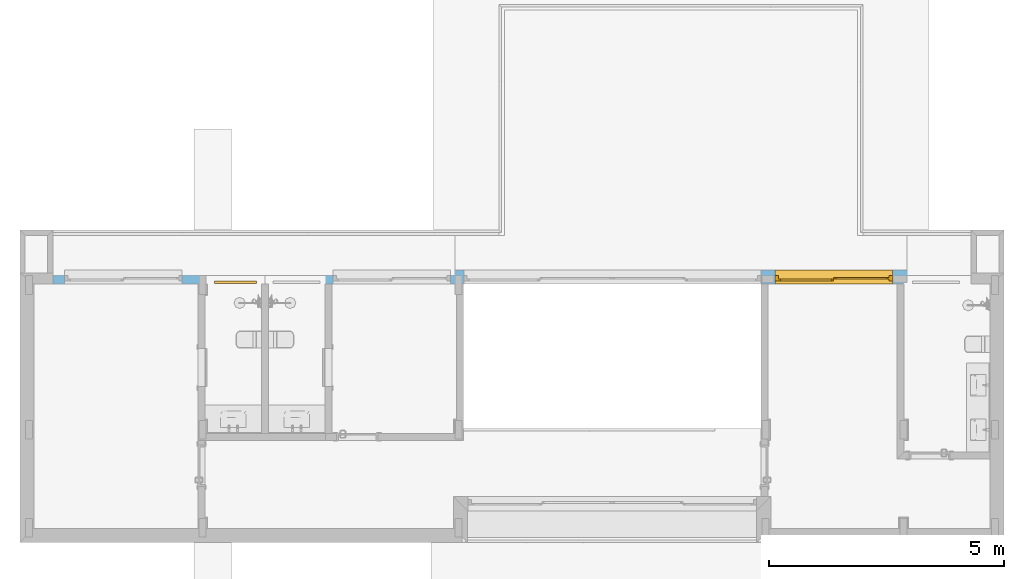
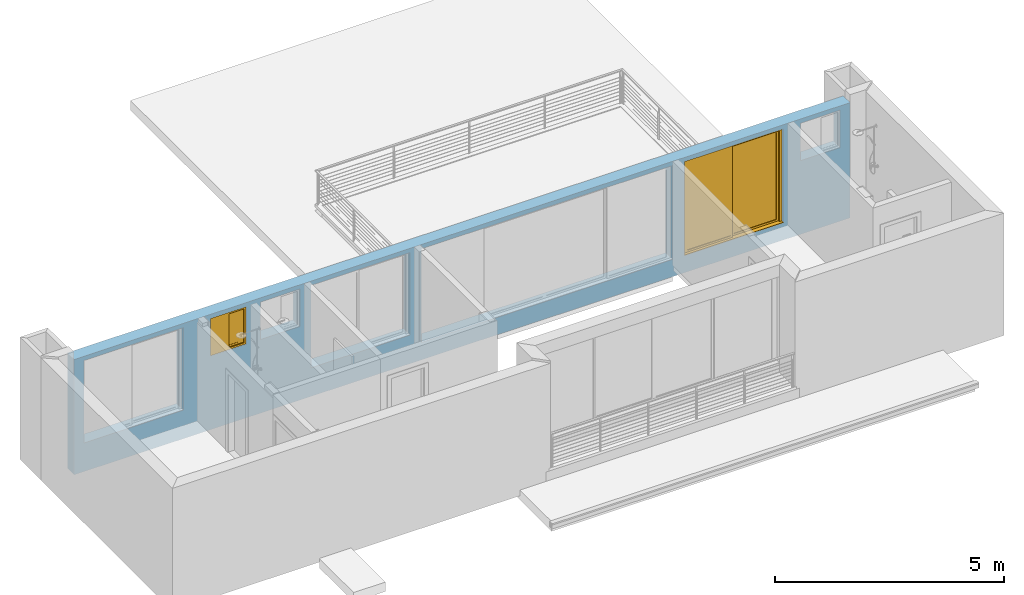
# One storey, part 16 of 24: 1 door, 1 window, 7 openings, plus 1 element that does not belong to this part.
"""IFC2X3 building model written with IfcOpenShell, lengths in millimetres."""

from ifc_helpers import new_model, entity, si_unit, converted_unit, money_unit, direction, frame, origin_with_axes, origin_2d_with_axis, place, context, subcontext, project, spatial, polyline, rectangle, outline, extrude, open_shell, faceted_brep, surface_model, material, material_list, layer, layer_set, layer_usage, type_object, element, fill, save


model = new_model("IFC2X3")

# Units and contexts
model_context = context("Model", 3, precision=1e-05, world=origin_with_axes(), true_north=direction((0.0, 1.0)))
body_context = subcontext(model_context, "Body", "Model", "MODEL_VIEW")
ifc_project = project(units=[si_unit("LENGTHUNIT", "METRE", prefix="MILLI"), si_unit("AREAUNIT", "SQUARE_METRE"), si_unit("VOLUMEUNIT", "CUBIC_METRE"), converted_unit("PLANEANGLEUNIT", "DEGREE", entity("IfcPlaneAngleMeasure", 0.0174532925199), si_unit("PLANEANGLEUNIT", "RADIAN"), dimensions=[0, 0, 0, 0, 0, 0, 0]), si_unit("SOLIDANGLEUNIT", "STERADIAN"), money_unit("USD"), converted_unit("TIMEUNIT", "Year", entity("IfcTimeMeasure", 31556926.0), si_unit("TIMEUNIT", "SECOND"), dimensions=[0, 0, 0, 0, 0, 0, 0]), si_unit("MASSUNIT", "GRAM"), si_unit("THERMODYNAMICTEMPERATUREUNIT", "DEGREE_CELSIUS"), si_unit("LUMINOUSINTENSITYUNIT", "LUMEN")], contexts=[model_context])

# Site, building, storey
site_placement = place(None, origin_with_axes())
site = spatial("IfcSite", under=ifc_project, at=site_placement, Name="Grove Residential", CompositionType="ELEMENT")
building_placement = place(site_placement, origin_with_axes())
building = spatial("IfcBuilding", under=site, at=building_placement, Name="Building", CompositionType="ELEMENT")
storey_placement = place(building_placement, frame((0.0, 0.0, 3740.0), z_axis=(0.0, 0.0, 1.0), x_axis=(1.0, 0.0, 0.0)))
storey = spatial("IfcBuildingStorey", under=building, at=storey_placement, Name="First Floor", CompositionType="ELEMENT", Elevation=3740.0)

# Wall, openings, door, window
ifc_material_1 = material(Name="External Render")
ifc_layer_1 = layer(ifc_material_1, 20.0, ventilated="UNKNOWN")
ifc_material_2 = material(Name="Cement Board")
ifc_layer_2 = layer(ifc_material_2, 10.0, ventilated="UNKNOWN")
ifc_material_3 = material(Name="Air Space")
ifc_layer_3 = layer(ifc_material_3, 35.0, ventilated="UNKNOWN")
ifc_material_4 = material(Name="Insulation - Plastic Soft")
ifc_layer_4 = layer(ifc_material_4, 50.0, ventilated="UNKNOWN")
ifc_material_5 = material(Name="Concrete Block")
ifc_layer_5 = layer(ifc_material_5, 150.0, ventilated="UNKNOWN")
ifc_material_6 = material(Name="Air Space - Fixing Zone")
ifc_layer_6 = layer(ifc_material_6, 10.0, ventilated="UNKNOWN")
ifc_material_7 = material(Name="Gypsum Plasterboard")
ifc_layer_7 = layer(ifc_material_7, 12.5, ventilated="UNKNOWN")
ifc_layer_8 = layer(ifc_material_7, 12.5, ventilated="UNKNOWN")
ifc_layer_set = layer_set([ifc_layer_1, ifc_layer_2, ifc_layer_3, ifc_layer_4, ifc_layer_5, ifc_layer_6, ifc_layer_7, ifc_layer_8], Name="EWF - 001")
ifc_layer_usage = layer_usage(ifc_layer_set, "AXIS2", "POSITIVE", -115.0)
wall_type = type_object("IfcWallType", Name="EWF - 001 300", PredefinedType="NOTDEFINED")
wall_placement = place(storey_placement, frame((11550.0, 7035.0, -360.0), z_axis=(0.0, 0.0, 1.0), x_axis=(-1.0, 0.0, 0.0)))
wall = element("IfcWallStandardCase", 1, at=wall_placement, inside=storey, type_object=wall_type, material=ifc_layer_usage, Name="SW - 004", context=body_context, shape_type="SweptSolid", body=[
    extrude(outline(polyline([(0.0, -115.0), (19550.0, -115.0), (19550.0, 185.0), (0.0, 185.0), (0.0, -115.0)])), origin_with_axes(), (0.0, 0.0, 1.0), 3070.0),
])
opening_1_placement = place(wall_placement, frame((750.0, 0.0, 1960.0), z_axis=(0.0, 0.0, 1.0), x_axis=(1.0, 0.0, 0.0)))
element("IfcOpeningElement", 2, at=opening_1_placement, cuts=wall, Name="W.03", context=body_context, shape_type="SweptSolid", body=[
    extrude(rectangle(XDim=1000.0, YDim=1000.0, at=origin_2d_with_axis()), frame((0.0, 120.0, 500.0), z_axis=(0.0, 1.0, 0.0), x_axis=(1.0, 0.0, 0.0)), (0.0, 0.0, -1.0), 535.0),
    extrude(rectangle(XDim=1000.0, YDim=1000.0, at=origin_2d_with_axis()), frame((0.0, 120.0, 500.0), z_axis=(0.0, -1.0, 0.0), x_axis=(1.0, 0.0, 0.0)), (0.0, 0.0, -1.0), 365.0),
])
opening_2_placement = place(wall_placement, frame((14360.0, 0.0, 1960.0), z_axis=(0.0, 0.0, 1.0), x_axis=(1.0, 0.0, 0.0)))
element("IfcOpeningElement", 3, at=opening_2_placement, cuts=wall, Name="W.03", context=body_context, shape_type="SweptSolid", body=[
    extrude(rectangle(XDim=1000.0, YDim=1000.0, at=origin_2d_with_axis()), frame((0.0, 120.0, 500.0), z_axis=(0.0, 1.0, 0.0), x_axis=(1.0, 0.0, 0.0)), (0.0, 0.0, -1.0), 535.0),
    extrude(rectangle(XDim=1000.0, YDim=1000.0, at=origin_2d_with_axis()), frame((0.0, 120.0, 500.0), z_axis=(0.0, -1.0, 0.0), x_axis=(1.0, 0.0, 0.0)), (0.0, 0.0, -1.0), 365.0),
])
opening_3_placement = place(wall_placement, frame((15660.0, 0.0, 1960.0), z_axis=(0.0, 0.0, 1.0), x_axis=(1.0, 0.0, 0.0)))
opening_3 = element("IfcOpeningElement", 4, at=opening_3_placement, cuts=wall, Name="W.02", context=body_context, shape_type="SweptSolid", body=[
    extrude(rectangle(XDim=900.0, YDim=1000.0, at=origin_2d_with_axis()), frame((0.0, 120.0, 500.0), z_axis=(0.0, 1.0, 0.0), x_axis=(1.0, 0.0, 0.0)), (0.0, 0.0, -1.0), 535.0),
    extrude(rectangle(XDim=900.0, YDim=1000.0, at=origin_2d_with_axis()), frame((0.0, 120.0, 500.0), z_axis=(0.0, -1.0, 0.0), x_axis=(1.0, 0.0, 0.0)), (0.0, 0.0, -1.0), 365.0),
])
opening_4_placement = place(wall_placement, frame((18050.0, 0.0, 760.0), z_axis=(0.0, 0.0, 1.0), x_axis=(1.0, 0.0, 0.0)))
element("IfcOpeningElement", 5, at=opening_4_placement, cuts=wall, Name="D.06", context=body_context, shape_type="SweptSolid", body=[
    extrude(rectangle(XDim=2500.0, YDim=2200.0, at=origin_2d_with_axis()), frame((0.0, 5.0, 1100.0), z_axis=(0.0, -1.0, 0.0), x_axis=(1.0, 0.0, 0.0)), (0.0, 0.0, -1.0), 480.0),
    extrude(rectangle(XDim=2500.0, YDim=2200.0, at=origin_2d_with_axis()), frame((0.0, 5.0, 1100.0), z_axis=(0.0, 1.0, 0.0), x_axis=(1.0, 0.0, 0.0)), (0.0, 0.0, -1.0), 420.0),
])
opening_5_placement = place(wall_placement, frame((12335.0000067, 0.0, 760.0), z_axis=(0.0, 0.0, 1.0), x_axis=(1.0, 0.0, 0.0)))
element("IfcOpeningElement", 6, at=opening_5_placement, cuts=wall, Name="D.06", context=body_context, shape_type="SweptSolid", body=[
    extrude(rectangle(XDim=2500.0, YDim=2200.0, at=origin_2d_with_axis()), frame((0.0, 5.0, 1100.0), z_axis=(0.0, -1.0, 0.0), x_axis=(1.0, 0.0, 0.0)), (0.0, 0.0, -1.0), 480.0),
    extrude(rectangle(XDim=2500.0, YDim=2200.0, at=origin_2d_with_axis()), frame((0.0, 5.0, 1100.0), z_axis=(0.0, 1.0, 0.0), x_axis=(1.0, 0.0, 0.0)), (0.0, 0.0, -1.0), 420.0),
])
opening_6_placement = place(wall_placement, frame((2925.0, 0.0, 460.0), z_axis=(0.0, 0.0, 1.0), x_axis=(1.0, 0.0, 0.0)))
opening_6 = element("IfcOpeningElement", 7, at=opening_6_placement, cuts=wall, Name="D.06", context=body_context, shape_type="SweptSolid", body=[
    extrude(rectangle(XDim=2500.0, YDim=2500.0, at=origin_2d_with_axis()), frame((0.0, 5.0, 1250.0), z_axis=(0.0, -1.0, 0.0), x_axis=(1.0, 0.0, 0.0)), (0.0, 0.0, -1.0), 480.0),
    extrude(rectangle(XDim=2500.0, YDim=2500.0, at=origin_2d_with_axis()), frame((0.0, 5.0, 1250.0), z_axis=(0.0, 1.0, 0.0), x_axis=(1.0, 0.0, 0.0)), (0.0, 0.0, -1.0), 420.0),
])
opening_7_placement = place(wall_placement, frame((7637.5, 0.0, 460.0), z_axis=(0.0, 0.0, 1.0), x_axis=(1.0, 0.0, 0.0)))
element("IfcOpeningElement", 8, at=opening_7_placement, cuts=wall, Name="D.13", context=body_context, shape_type="SweptSolid", body=[
    extrude(rectangle(XDim=6325.0, YDim=2500.0, at=origin_2d_with_axis()), frame((0.0, 5.0, 1250.0), z_axis=(0.0, -1.0, 0.0), x_axis=(1.0, 0.0, 0.0)), (0.0, 0.0, -1.0), 480.0),
    extrude(rectangle(XDim=6325.0, YDim=2500.0, at=origin_2d_with_axis()), frame((0.0, 5.0, 1250.0), z_axis=(0.0, 1.0, 0.0), x_axis=(1.0, 0.0, 0.0)), (0.0, 0.0, -1.0), 420.0),
])
ifc_material_8 = material(Name="Background")
ifc_material_9 = material(Name="Air Space")
ifc_material_10 = material(Name="Foreground")
ifc_material_11 = material(Name="Rigid Insulation")
ifc_material_12 = material(Name="Batt Insulation")
ifc_material_list_1 = material_list([ifc_material_8, ifc_material_9, ifc_material_10, ifc_material_8, ifc_material_8, ifc_material_8, ifc_material_8, ifc_material_11, ifc_material_8, ifc_material_8, ifc_material_8, ifc_material_8, ifc_material_9, ifc_material_8, ifc_material_12, ifc_material_8])
door_style = type_object("IfcDoorStyle", Name="Sliding Door 21", ConstructionType="NOTDEFINED", OperationType="USERDEFINED", ParameterTakesPrecedence=False, Sizeable=False)
door_placement = place(opening_6_placement, frame((-1250.0, 0.0, 0.0), z_axis=(0.0, 0.0, 1.0), x_axis=(1.0, 0.0, 0.0)))
door = element("IfcDoor", 9, at=door_placement, inside=storey, type_object=door_style, material=ifc_material_list_1, Name="D.06", OverallHeight=2500.0, OverallWidth=2500.0, context=body_context, shape_type="SurfaceModel", body=[
    faceted_brep([(0.0, 5.0, 0.0), (0.0, -115.01, 0.0), (0.0, -115.01, 12.0), (0.0, 5.0, 12.0), (70.0, 5.0, 0.0), (70.0, 120.0, 0.0), (0.0, 120.0, 0.0), (0.0, 185.0, 0.0), (0.0, 185.01, 0.0), (2500.0, 185.01, 0.0), (2500.0, 185.0, 0.0), (2500.0, 120.0, 0.0), (2430.0, 120.0, 0.0), (2430.0, 5.0, 0.0), (2500.0, 5.0, 0.0), (2500.0, -115.0, 0.0), (2500.0, -115.0, 12.0), (2500.0, 5.0, 12.0), (2430.0, 5.0, 12.0), (2430.0, 120.0, 12.0), (2500.0, 120.0, 12.0), (2500.0, 185.0, 12.0), (2500.0, 185.01, 12.0), (0.0, 185.01, 12.0), (0.0, 185.0, 12.0), (0.0, 120.0, 12.0), (70.0, 120.0, 12.0), (70.0, 5.0, 12.0)], [[[0, 1, 2, 3]], [[0, 4, 5, 6, 7, 8, 9, 10, 11, 12, 13, 14, 15, 1]], [[1, 15, 16, 2]], [[3, 2, 16, 17, 18, 19, 20, 21, 22, 23, 24, 25, 26, 27]], [[4, 0, 3, 27]], [[5, 4, 27, 26]], [[6, 5, 26, 25]], [[7, 6, 25, 24]], [[8, 7, 24, 23]], [[9, 8, 23, 22]], [[10, 9, 22, 21]], [[11, 10, 21, 20]], [[12, 11, 20, 19]], [[13, 12, 19, 18]], [[14, 13, 18, 17]], [[15, 14, 17, 16]]]),
    faceted_brep([(0.0, 120.0, 0.0), (70.0, 120.0, 0.0), (70.0, 5.0, 0.0), (0.0, 5.0, 0.0), (0.0, 120.0, 2430.0), (70.0, 120.0, 2430.0), (70.0, 5.0, 2430.0), (0.0, 5.0, 2430.0)], [[[0, 1, 2, 3]], [[0, 4, 5, 1]], [[1, 5, 6, 2]], [[3, 2, 6, 7]], [[4, 0, 3, 7]], [[5, 4, 7, 6]]]),
    faceted_brep([(2500.0, 120.0, 0.0), (2500.0, 120.0, 2430.0), (2500.0, 5.0, 2430.0), (2500.0, 5.0, 0.0), (2430.0, 120.0, 0.0), (2430.0, 120.0, 2430.0), (2430.0, 5.0, 2430.0), (2430.0, 5.0, 0.0)], [[[0, 1, 2, 3]], [[0, 4, 5, 1]], [[1, 5, 6, 2]], [[3, 2, 6, 7]], [[4, 0, 3, 7]], [[5, 4, 7, 6]]]),
    faceted_brep([(0.0, 120.0, 2500.0), (0.0, 120.0, 2430.0), (0.0, 5.0, 2430.0), (0.0, 5.0, 2500.0), (2500.0, 120.0, 2500.0), (2500.0, 120.0, 2430.0), (2430.0, 120.0, 2430.0), (70.0, 120.0, 2430.0), (70.0, 5.0, 2430.0), (2430.0, 5.0, 2430.0), (2500.0, 5.0, 2430.0), (2500.0, 5.0, 2500.0)], [[[0, 1, 2, 3]], [[0, 4, 5, 6, 7, 1]], [[1, 7, 8, 2]], [[3, 2, 8, 9, 10, 11]], [[4, 0, 3, 11]], [[5, 4, 11, 10]], [[6, 5, 10, 9]], [[7, 6, 9, 8]]]),
    faceted_brep([(1250.0, 120.0, 62.0), (1300.0, 120.0, 62.0), (1300.0, 80.0, 62.0), (1250.0, 80.0, 62.0), (1250.0, 120.0, 2380.0), (1300.0, 120.0, 2380.0), (1300.0, 80.0, 2380.0), (1250.0, 80.0, 2380.0)], [[[0, 1, 2, 3]], [[0, 4, 5, 1]], [[1, 5, 6, 2]], [[3, 2, 6, 7]], [[4, 0, 3, 7]], [[5, 4, 7, 6]]]),
    faceted_brep([(2430.0, 120.0, 62.0), (2430.0, 120.0, 2380.0), (2430.0, 80.0, 2380.0), (2430.0, 80.0, 62.0), (2380.0, 120.0, 62.0), (2380.0, 120.0, 2380.0), (2380.0, 80.0, 2380.0), (2380.0, 80.0, 62.0)], [[[0, 1, 2, 3]], [[0, 4, 5, 1]], [[1, 5, 6, 2]], [[3, 2, 6, 7]], [[4, 0, 3, 7]], [[5, 4, 7, 6]]]),
    faceted_brep([(1250.0, 120.0, 12.0), (2430.0, 120.0, 12.0), (2430.0, 80.0, 12.0), (1250.0, 80.0, 12.0), (1250.0, 120.0, 62.0), (1300.0, 120.0, 62.0), (2380.0, 120.0, 62.0), (2430.0, 120.0, 62.0), (2430.0, 80.0, 62.0), (2380.0, 80.0, 62.0), (1300.0, 80.0, 62.0), (1250.0, 80.0, 62.0)], [[[0, 1, 2, 3]], [[0, 4, 5, 6, 7, 1]], [[1, 7, 8, 2]], [[3, 2, 8, 9, 10, 11]], [[4, 0, 3, 11]], [[5, 4, 11, 10]], [[6, 5, 10, 9]], [[7, 6, 9, 8]]]),
    faceted_brep([(1250.0, 120.0, 2430.0), (1250.0, 120.0, 2380.0), (1250.0, 80.0, 2380.0), (1250.0, 80.0, 2430.0), (2430.0, 120.0, 2430.0), (2430.0, 120.0, 2380.0), (2380.0, 120.0, 2380.0), (1300.0, 120.0, 2380.0), (1300.0, 80.0, 2380.0), (2380.0, 80.0, 2380.0), (2430.0, 80.0, 2380.0), (2430.0, 80.0, 2430.0)], [[[0, 1, 2, 3]], [[0, 4, 5, 6, 7, 1]], [[1, 7, 8, 2]], [[3, 2, 8, 9, 10, 11]], [[4, 0, 3, 11]], [[5, 4, 11, 10]], [[6, 5, 10, 9]], [[7, 6, 9, 8]]]),
    surface_model("IfcShellBasedSurfaceModel", [(1300.0, 106.0, 62.0), (1300.0, 106.0, 2380.0), (2380.0, 106.0, 2380.0), (2380.0, 106.0, 62.0)], [open_shell([[[0, 1, 2, 3]]])]),
    surface_model("IfcShellBasedSurfaceModel", [(1300.0, 94.0, 62.0), (2380.0, 94.0, 62.0), (2380.0, 94.0, 2380.0), (1300.0, 94.0, 2380.0)], [open_shell([[[0, 1, 2, 3]]])]),
    faceted_brep([(1250.0, 80.0, 62.0), (1250.0, 40.0, 62.0), (1200.0, 40.0, 62.0), (1200.0, 80.0, 62.0), (1250.0, 80.0, 2380.0), (1250.0, 40.0, 2380.0), (1200.0, 40.0, 2380.0), (1200.0, 80.0, 2380.0)], [[[0, 1, 2, 3]], [[4, 5, 1, 0]], [[1, 5, 6, 2]], [[3, 2, 6, 7]], [[0, 3, 7, 4]], [[7, 6, 5, 4]]]),
    faceted_brep([(70.0, 80.0, 62.0), (70.0, 40.0, 62.0), (70.0, 40.0, 2380.0), (70.0, 80.0, 2380.0), (120.0, 80.0, 62.0), (120.0, 40.0, 62.0), (120.0, 40.0, 2380.0), (120.0, 80.0, 2380.0)], [[[0, 1, 2, 3]], [[4, 5, 1, 0]], [[1, 5, 6, 2]], [[3, 2, 6, 7]], [[0, 3, 7, 4]], [[7, 6, 5, 4]]]),
    faceted_brep([(1250.0, 80.0, 12.0), (1250.0, 40.0, 12.0), (70.0, 40.0, 12.0), (70.0, 80.0, 12.0), (1250.0, 80.0, 62.0), (1250.0, 40.0, 62.0), (1200.0, 40.0, 62.0), (120.0, 40.0, 62.0), (70.0, 40.0, 62.0), (70.0, 80.0, 62.0), (120.0, 80.0, 62.0), (1200.0, 80.0, 62.0)], [[[0, 1, 2, 3]], [[4, 5, 1, 0]], [[1, 5, 6, 7, 8, 2]], [[3, 2, 8, 9]], [[0, 3, 9, 10, 11, 4]], [[11, 6, 5, 4]], [[10, 7, 6, 11]], [[9, 8, 7, 10]]]),
    faceted_brep([(1250.0, 80.0, 2430.0), (1250.0, 40.0, 2430.0), (1250.0, 40.0, 2380.0), (1250.0, 80.0, 2380.0), (70.0, 80.0, 2430.0), (70.0, 40.0, 2430.0), (70.0, 40.0, 2380.0), (120.0, 40.0, 2380.0), (1200.0, 40.0, 2380.0), (1200.0, 80.0, 2380.0), (120.0, 80.0, 2380.0), (70.0, 80.0, 2380.0)], [[[0, 1, 2, 3]], [[4, 5, 1, 0]], [[1, 5, 6, 7, 8, 2]], [[3, 2, 8, 9]], [[0, 3, 9, 10, 11, 4]], [[11, 6, 5, 4]], [[10, 7, 6, 11]], [[9, 8, 7, 10]]]),
    surface_model("IfcShellBasedSurfaceModel", [(1200.0, 66.0, 62.0), (120.0, 66.0, 62.0), (120.0, 66.0, 2380.0), (1200.0, 66.0, 2380.0)], [open_shell([[[0, 1, 2, 3]]])]),
    surface_model("IfcShellBasedSurfaceModel", [(1200.0, 54.0, 62.0), (1200.0, 54.0, 2380.0), (120.0, 54.0, 2380.0), (120.0, 54.0, 62.0)], [open_shell([[[0, 1, 2, 3]]])]),
])
fill(opening_6, door)
ifc_material_list_2 = material_list([ifc_material_8, ifc_material_9, ifc_material_8, ifc_material_8, ifc_material_8, ifc_material_11, ifc_material_8, ifc_material_8, ifc_material_8, ifc_material_8, ifc_material_9, ifc_material_8, ifc_material_12])
window_style = type_object("IfcWindowStyle", Name="Window 21", ConstructionType="NOTDEFINED", OperationType="DOUBLE_PANEL_VERTICAL", ParameterTakesPrecedence=False, Sizeable=False)
window_placement = place(opening_3_placement, frame((-450.0, 0.0, 0.0), z_axis=(0.0, 0.0, 1.0), x_axis=(1.0, 0.0, 0.0)))
window = element("IfcWindow", 10, at=window_placement, inside=storey, type_object=window_style, material=ifc_material_list_2, Name="W.02", OverallHeight=1000.0, OverallWidth=900.0, context=body_context, shape_type="SurfaceModel", body=[
    faceted_brep([(50.0, 120.0, 950.0), (50.0, 170.0, 950.0), (0.0, 170.0, 950.0), (0.0, 120.0, 950.0), (50.0, 120.0, 50.0), (50.0, 170.0, 50.0), (0.0, 170.0, 50.0), (0.0, 120.0, 50.0)], [[[0, 1, 2, 3]], [[4, 5, 1, 0]], [[1, 5, 6, 2]], [[3, 2, 6, 7]], [[0, 3, 7, 4]], [[7, 6, 5, 4]]]),
    faceted_brep([(850.0, 120.0, 50.0), (850.0, 170.0, 50.0), (900.0, 170.0, 50.0), (900.0, 120.0, 50.0), (850.0, 120.0, 950.0), (850.0, 170.0, 950.0), (900.0, 170.0, 950.0), (900.0, 120.0, 950.0)], [[[0, 1, 2, 3]], [[4, 5, 1, 0]], [[1, 5, 6, 2]], [[3, 2, 6, 7]], [[0, 3, 7, 4]], [[7, 6, 5, 4]]]),
    faceted_brep([(50.0, 120.0, 50.0), (50.0, 170.0, 50.0), (0.0, 170.0, 50.0), (0.0, 120.0, 50.0), (850.0, 120.0, 50.0), (850.0, 170.0, 50.0), (900.0, 170.0, 50.0), (900.0, 170.0, 0.0), (0.0, 170.0, 0.0), (0.0, 120.0, 0.0), (900.0, 120.0, 0.0), (900.0, 120.0, 50.0)], [[[0, 1, 2, 3]], [[4, 5, 1, 0]], [[1, 5, 6, 7, 8, 2]], [[3, 2, 8, 9]], [[0, 3, 9, 10, 11, 4]], [[11, 6, 5, 4]], [[10, 7, 6, 11]], [[9, 8, 7, 10]]]),
    faceted_brep([(850.0, 120.0, 950.0), (850.0, 170.0, 950.0), (900.0, 170.0, 950.0), (900.0, 120.0, 950.0), (50.0, 120.0, 950.0), (50.0, 170.0, 950.0), (0.0, 170.0, 950.0), (0.0, 170.0, 1000.0), (900.0, 170.0, 1000.0), (900.0, 120.0, 1000.0), (0.0, 120.0, 1000.0), (0.0, 120.0, 950.0)], [[[0, 1, 2, 3]], [[4, 5, 1, 0]], [[1, 5, 6, 7, 8, 2]], [[3, 2, 8, 9]], [[0, 3, 9, 10, 11, 4]], [[11, 6, 5, 4]], [[10, 7, 6, 11]], [[9, 8, 7, 10]]]),
    faceted_brep([(475.0, 145.0, 900.0), (475.0, 170.0, 900.0), (425.0, 170.0, 900.0), (425.0, 145.0, 900.0), (475.0, 145.0, 100.0), (475.0, 170.0, 100.0), (425.0, 170.0, 100.0), (425.0, 145.0, 100.0)], [[[0, 1, 2, 3]], [[4, 5, 1, 0]], [[1, 5, 6, 2]], [[3, 2, 6, 7]], [[0, 3, 7, 4]], [[7, 6, 5, 4]]]),
    faceted_brep([(800.0, 145.0, 100.0), (800.0, 170.0, 100.0), (850.0, 170.0, 100.0), (850.0, 145.0, 100.0), (800.0, 145.0, 900.0), (800.0, 170.0, 900.0), (850.0, 170.0, 900.0), (850.0, 145.0, 900.0)], [[[0, 1, 2, 3]], [[4, 5, 1, 0]], [[1, 5, 6, 2]], [[3, 2, 6, 7]], [[0, 3, 7, 4]], [[7, 6, 5, 4]]]),
    faceted_brep([(850.0, 145.0, 50.0), (850.0, 170.0, 50.0), (850.0, 170.0, 100.0), (850.0, 145.0, 100.0), (425.0, 145.0, 50.0), (425.0, 170.0, 50.0), (425.0, 170.0, 100.0), (475.0, 170.0, 100.0), (800.0, 170.0, 100.0), (800.0, 145.0, 100.0), (475.0, 145.0, 100.0), (425.0, 145.0, 100.0)], [[[0, 1, 2, 3]], [[4, 5, 1, 0]], [[1, 5, 6, 7, 8, 2]], [[3, 2, 8, 9]], [[0, 3, 9, 10, 11, 4]], [[11, 6, 5, 4]], [[10, 7, 6, 11]], [[9, 8, 7, 10]]]),
    faceted_brep([(425.0, 145.0, 950.0), (425.0, 170.0, 950.0), (425.0, 170.0, 900.0), (425.0, 145.0, 900.0), (850.0, 145.0, 950.0), (850.0, 170.0, 950.0), (850.0, 170.0, 900.0), (800.0, 170.0, 900.0), (475.0, 170.0, 900.0), (475.0, 145.0, 900.0), (800.0, 145.0, 900.0), (850.0, 145.0, 900.0)], [[[0, 1, 2, 3]], [[4, 5, 1, 0]], [[1, 5, 6, 7, 8, 2]], [[3, 2, 8, 9]], [[0, 3, 9, 10, 11, 4]], [[11, 6, 5, 4]], [[10, 7, 6, 11]], [[9, 8, 7, 10]]]),
    surface_model("IfcShellBasedSurfaceModel", [(475.0, 147.5, 100.0), (800.0, 147.5, 100.0), (800.0, 147.5, 900.0), (475.0, 147.5, 900.0)], [open_shell([[[0, 1, 2, 3]]])]),
    surface_model("IfcShellBasedSurfaceModel", [(475.0, 167.5, 100.0), (475.0, 167.5, 900.0), (800.0, 167.5, 900.0), (800.0, 167.5, 100.0)], [open_shell([[[0, 1, 2, 3]]])]),
    faceted_brep([(100.0, 120.0, 900.0), (100.0, 145.0, 900.0), (50.0, 145.0, 900.0), (50.0, 120.0, 900.0), (100.0, 120.0, 100.0), (100.0, 145.0, 100.0), (50.0, 145.0, 100.0), (50.0, 120.0, 100.0)], [[[0, 1, 2, 3]], [[4, 5, 1, 0]], [[1, 5, 6, 2]], [[3, 2, 6, 7]], [[0, 3, 7, 4]], [[7, 6, 5, 4]]]),
    faceted_brep([(425.0, 120.0, 100.0), (425.0, 145.0, 100.0), (475.0, 145.0, 100.0), (475.0, 120.0, 100.0), (425.0, 120.0, 900.0), (425.0, 145.0, 900.0), (475.0, 145.0, 900.0), (475.0, 120.0, 900.0)], [[[0, 1, 2, 3]], [[4, 5, 1, 0]], [[1, 5, 6, 2]], [[3, 2, 6, 7]], [[0, 3, 7, 4]], [[7, 6, 5, 4]]]),
    faceted_brep([(475.0, 120.0, 50.0), (475.0, 145.0, 50.0), (475.0, 145.0, 100.0), (475.0, 120.0, 100.0), (50.0, 120.0, 50.0), (50.0, 145.0, 50.0), (50.0, 145.0, 100.0), (100.0, 145.0, 100.0), (425.0, 145.0, 100.0), (425.0, 120.0, 100.0), (100.0, 120.0, 100.0), (50.0, 120.0, 100.0)], [[[0, 1, 2, 3]], [[4, 5, 1, 0]], [[1, 5, 6, 7, 8, 2]], [[3, 2, 8, 9]], [[0, 3, 9, 10, 11, 4]], [[11, 6, 5, 4]], [[10, 7, 6, 11]], [[9, 8, 7, 10]]]),
    faceted_brep([(50.0, 120.0, 950.0), (50.0, 145.0, 950.0), (50.0, 145.0, 900.0), (50.0, 120.0, 900.0), (475.0, 120.0, 950.0), (475.0, 145.0, 950.0), (475.0, 145.0, 900.0), (425.0, 145.0, 900.0), (100.0, 145.0, 900.0), (100.0, 120.0, 900.0), (425.0, 120.0, 900.0), (475.0, 120.0, 900.0)], [[[0, 1, 2, 3]], [[4, 5, 1, 0]], [[1, 5, 6, 7, 8, 2]], [[3, 2, 8, 9]], [[0, 3, 9, 10, 11, 4]], [[11, 6, 5, 4]], [[10, 7, 6, 11]], [[9, 8, 7, 10]]]),
    surface_model("IfcShellBasedSurfaceModel", [(100.0, 122.5, 100.0), (425.0, 122.5, 100.0), (425.0, 122.5, 900.0), (100.0, 122.5, 900.0)], [open_shell([[[0, 1, 2, 3]]])]),
    surface_model("IfcShellBasedSurfaceModel", [(100.0, 142.5, 100.0), (100.0, 142.5, 900.0), (425.0, 142.5, 900.0), (425.0, 142.5, 100.0)], [open_shell([[[0, 1, 2, 3]]])]),
])
fill(opening_3, window)

save(model, "model.ifc")
